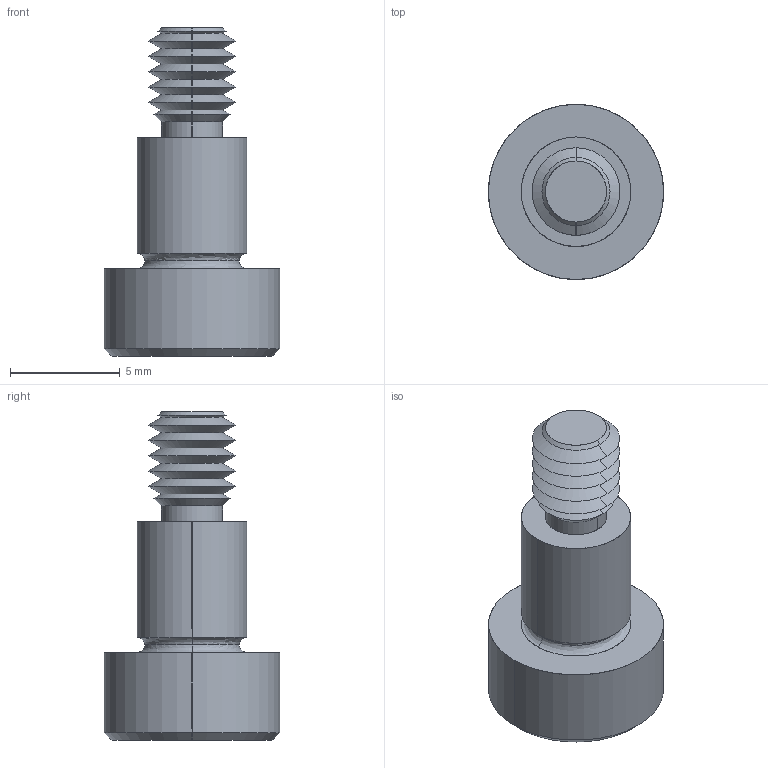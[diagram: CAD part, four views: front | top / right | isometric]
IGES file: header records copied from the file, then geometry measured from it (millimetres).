
Start section: SolidWorks IGES file using analytic representation for surfaces
Global section: file name: C:\Users\IanO\Documents\Temp Folder\GENERAL\SCREW REVISION\P0130_v2\P0130.T5_v2_20220106_IGES\P0130.050-006-T5.igs; native system: SolidWorks 2019; preprocessor: SolidWorks 2019; author: IanO; date: 220106.221327; units: millimetre
Bounding box: 8 x 8 x 15 mm (x, y, z)
Surface area: 410.2 mm2 (no closed solid volume)
Topology: 0 solids, 0 shells, 64 faces, 504 edges, 502 vertices
Faces by surface type: revolution 44, bspline 20
